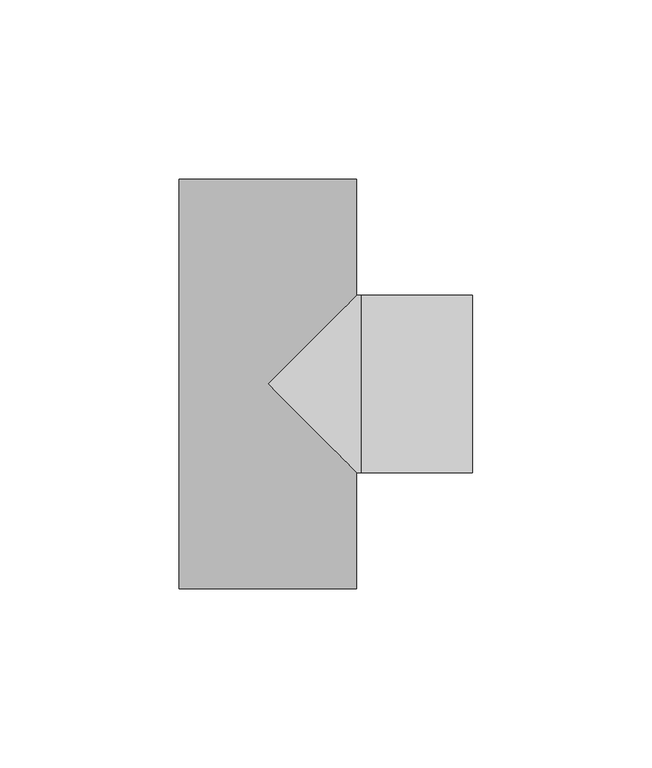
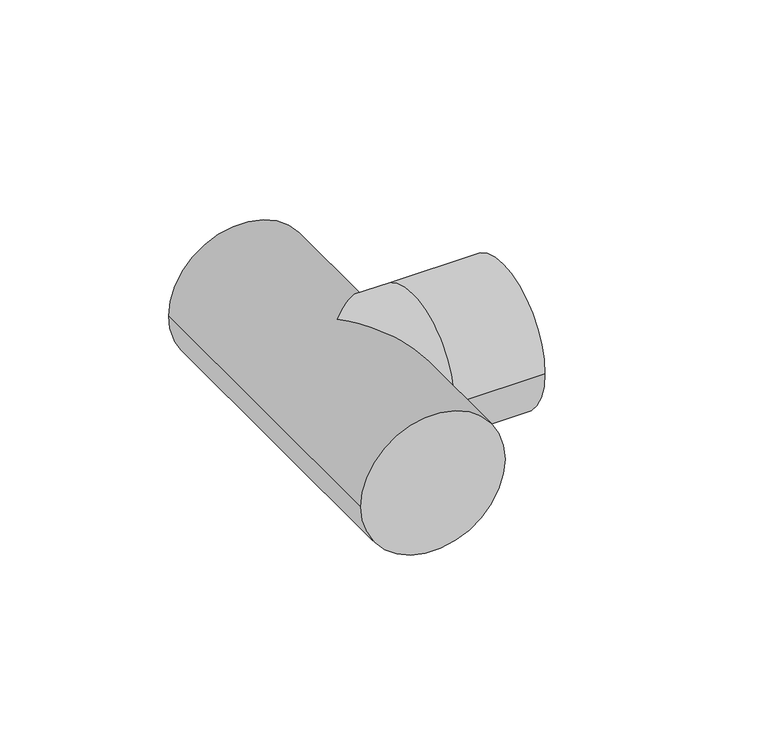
"""IFC4 building model written with IfcOpenShell, lengths in millimetres: pipe fitting geometry, 01051003 : Tes 90º."""

from ifc_helpers import new_model, si_unit, frame, origin, place, context, project, spatial, circle_curve, ellipse_curve, source, transform, mapped, element, save
from ifc_brep_helpers import plane_surface, cylinder_surface, advanced_brep


def pipe_fitting_1857178f(model_context):
    return source(origin(), model_context, "Body", "AdvancedBrep", [
        advanced_brep(
        [(-24.7, 57.0, 0.0), (24.7, 57.0, 0.0), (-24.7, -57.0, 0.0), (24.7, -57.0, 0.0), (24.7, -24.7, 0.0), (0.0, 0.0, 24.7), (24.7, 24.7, 0.0), (0.0, 0.0, -24.7), (57.0, 24.7, 0.0), (57.0, -24.7, 0.0), (26.0, -24.7, 0.0), (26.0, 24.7, 0.0)],
        [
            (0, 1, circle_curve(frame((0.0, 57.0, 0.0), z_axis=(0.0, 1.0, 0.0), x_axis=(1.0, 0.0, 0.0)), 24.7)),
            (1, 0, circle_curve(frame((0.0, 57.0, 0.0), z_axis=(0.0, 1.0, 0.0), x_axis=(1.0, 0.0, 0.0)), 24.7)),
            (2, 3, circle_curve(frame((0.0, -57.0, 0.0), z_axis=(0.0, -1.0, 0.0), x_axis=(1.0, 0.0, 0.0)), 24.7)),
            (3, 2, circle_curve(frame((0.0, -57.0, 0.0), z_axis=(0.0, -1.0, 0.0), x_axis=(1.0, 0.0, 0.0)), 24.7)),
            (0, 2),
            (3, 4),
            (4, 5, ellipse_curve(frame((0.0, 0.0, 0.0), z_axis=(-0.7071067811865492, -0.7071067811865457, 0.0), x_axis=(-0.7071067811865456, 0.7071067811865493, 0.0)), 34.931075, 24.7)),
            (5, 6, ellipse_curve(frame((0.0, 0.0, 0.0), z_axis=(-0.7071067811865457, 0.7071067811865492, 0.0), x_axis=(0.7071067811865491, 0.7071067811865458, 0.0)), 34.931075, 24.7)),
            (6, 1),
            (6, 7, ellipse_curve(frame((0.0, 0.0, 0.0), z_axis=(-0.7071067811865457, 0.7071067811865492, 0.0), x_axis=(0.7071067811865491, 0.7071067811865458, 0.0)), 34.931075, 24.7)),
            (7, 4, ellipse_curve(frame((0.0, 0.0, 0.0), z_axis=(-0.7071067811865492, -0.7071067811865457, 0.0), x_axis=(-0.7071067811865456, 0.7071067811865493, 0.0)), 34.931075, 24.7)),
            (8, 9, circle_curve(frame((57.0, 0.0, 0.0), z_axis=(1.0, 0.0, 0.0), x_axis=(0.0, -1.0, 0.0)), 24.7)),
            (9, 8, circle_curve(frame((57.0, 0.0, 0.0), z_axis=(1.0, 0.0, 0.0), x_axis=(0.0, -1.0, 0.0)), 24.7)),
            (10, 11, circle_curve(frame((26.0, 0.0, 0.0), z_axis=(-1.0, 0.0, 0.0), x_axis=(0.0, -1.0, 0.0)), 24.7)),
            (11, 6),
            (4, 10),
            (11, 10, circle_curve(frame((26.0, 0.0, 0.0), z_axis=(-1.0, 0.0, 0.0), x_axis=(0.0, -1.0, 0.0)), 24.7)),
            (8, 11),
            (10, 9),
        ],
        [
            plane_surface(frame((0.0, 57.0, 0.0), z_axis=(0.0, 1.0, 0.0), x_axis=(0.0, 0.0, 1.0))),
            plane_surface(frame((0.0, -57.0, 0.0), z_axis=(0.0, -1.0, 0.0), x_axis=(0.0, 0.0, 1.0))),
            cylinder_surface(frame((0.0, 57.0, 0.0), z_axis=(0.0, 1.0, 0.0), x_axis=(1.0, 0.0, 0.0)), 24.7),
            plane_surface(frame((57.0, 0.0, 0.0), z_axis=(1.0, 0.0, 0.0), x_axis=(0.0, 0.0, 1.0))),
            cylinder_surface(frame((26.0, 0.0, 0.0), z_axis=(1.0, 0.0, 0.0), x_axis=(0.0, -1.0, 0.0)), 24.7),
            cylinder_surface(frame((57.0, 0.0, 0.0), z_axis=(1.0, 0.0, 0.0), x_axis=(0.0, -1.0, 0.0)), 24.7),
        ],
        [
            (0, [[1, 2]]),
            (1, [[3, 4]]),
            (2, [[-1, 5, -4, 6, 7, 8, 9]]),
            (2, [[-2, -9, 10, 11, -6, -3, -5]]),
            (3, [[12, 13]]),
            (4, [[14, 15, -8, -7, 16]]),
            (4, [[17, -16, -11, -10, -15]]),
            (5, [[-12, 18, -14, 19]]),
            (5, [[-13, -19, -17, -18]]),
        ],
    ),
    ])


if __name__ == "__main__":
    model = new_model("IFC4")
    model_context = context("Model", 3, world=origin())
    ifc_project = project(units=[si_unit("LENGTHUNIT", "METRE", prefix="MILLI")], contexts=[model_context])
    site = spatial("IfcSite", under=ifc_project)
    building = spatial("IfcBuilding", under=site)
    placement = place(None, origin())
    pipe_fitting_shape = pipe_fitting_1857178f(model_context)
    element("IfcPipeFitting", 1, ObjectType="01051003 : Tes 90º", at=placement, inside=building, context=model_context, shape_type="MappedRepresentation", body=[
        mapped(pipe_fitting_shape, transform((0.0, 0.0, 0.0), x_axis=(1.0, 0.0, 0.0), y_axis=(0.0, 1.0, 0.0), z_axis=(0.0, 0.0, 1.0))),
    ])
    save(model, "model.ifc")
